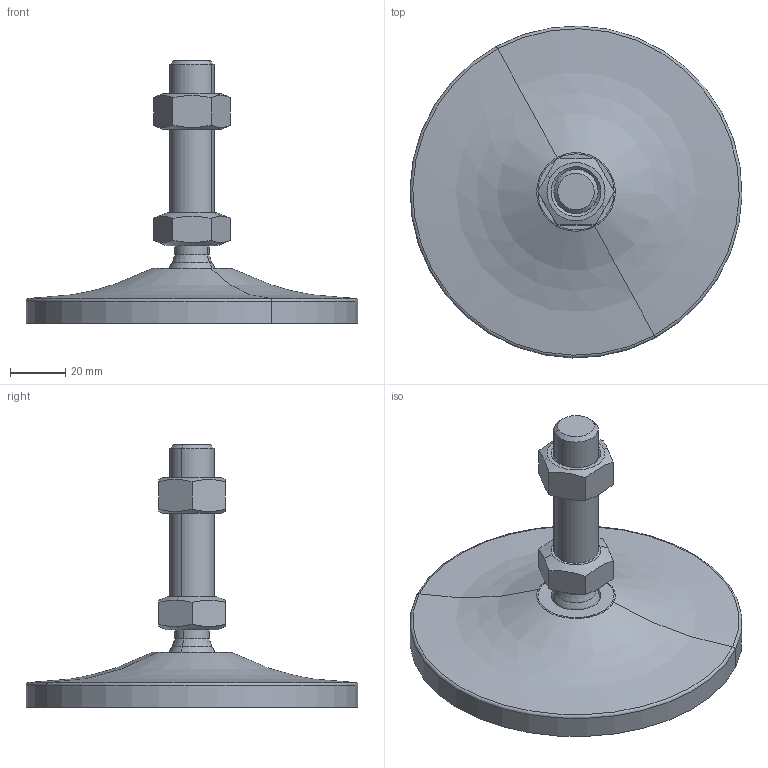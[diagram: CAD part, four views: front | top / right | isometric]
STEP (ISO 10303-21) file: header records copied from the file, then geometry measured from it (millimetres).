
FILE_DESCRIPTION(('CATIA V5 STEP Exchange'),'2;1');
FILE_NAME('C:\Users\ALI OZGUN\Desktop\alhan\saplama2\560122010.stp','2017-09-21T10:35:57+00:00',('none'),('none'),'CATIA Version 5 Release 21 GA (IN-10)','CATIA V5 STEP AP203','none');
FILE_SCHEMA(('CONFIG_CONTROL_DESIGN'));
Length unit declared in the file: millimetre
Products named in the file (1): 560122010
Bounding box: 119.97 x 119.97 x 95 mm (x, y, z)
Volume: 108066.3 mm3; surface area: 35758.6 mm2
Topology: 3 solids, 3 shells, 60 faces, 136 edges, 83 vertices
Faces by surface type: plane 20, cone 16, cylinder 14, torus 4, revolution 4, sphere 2
Entity records: 1875 total; most frequent: CARTESIAN_POINT 633, ORIENTED_EDGE 268, DIRECTION 185, EDGE_CURVE 134, AXIS2_PLACEMENT_3D 99, VERTEX_POINT 83, EDGE_LOOP 67, ADVANCED_FACE 60
